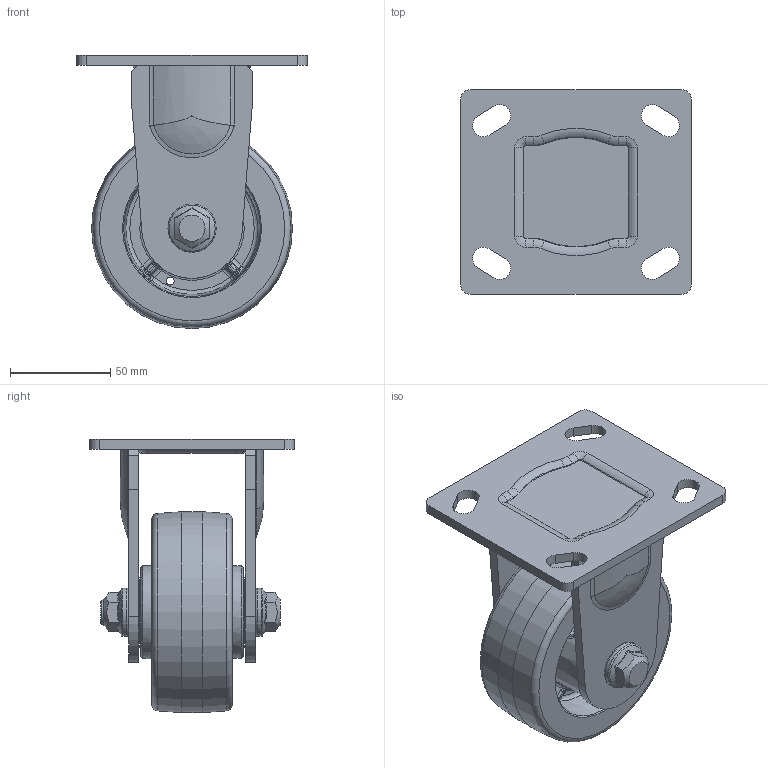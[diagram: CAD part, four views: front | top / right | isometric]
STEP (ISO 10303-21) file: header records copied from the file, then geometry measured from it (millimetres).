
FILE_DESCRIPTION((''),'2;1');
FILE_NAME('C:\Documents and Settings\Administrator\바탕 화면\3D STEP\PM-SERIES\PM-100A-RF\PM-100A-RF.stp','2010-12-27T15:05:26',('Administrator'),(''),'Autodesk Inventor 2009','Autodesk Inventor 2009','');
FILE_SCHEMA(('AUTOMOTIVE_DESIGN { 1 0 10303 214 1 1 1 1 }'));
Length unit declared in the file: millimetre
Products named in the file (1): PM-100A-RF
Bounding box: 115 x 102 x 136 mm (x, y, z)
Volume: 365559.7 mm3; surface area: 105399.6 mm2
Topology: 4 solids, 6 shells, 525 faces, 1214 edges, 706 vertices
Faces by surface type: bspline 268, plane 97, cylinder 92, cone 48, torus 20
Full cylindrical faces by diameter (mm): 4 x2, 12 x1, 21.5 x1, 24 x2, 30.5 x2, 35 x2, 35.18 x2, 35.23 x1, 100 x1
Entity records: 28466 total; most frequent: CARTESIAN_POINT 17765, ORIENTED_EDGE 2324, DIRECTION 2054, EDGE_CURVE 1162, AXIS2_PLACEMENT_3D 905, VERTEX_POINT 692, CIRCLE 632, EDGE_LOOP 592
